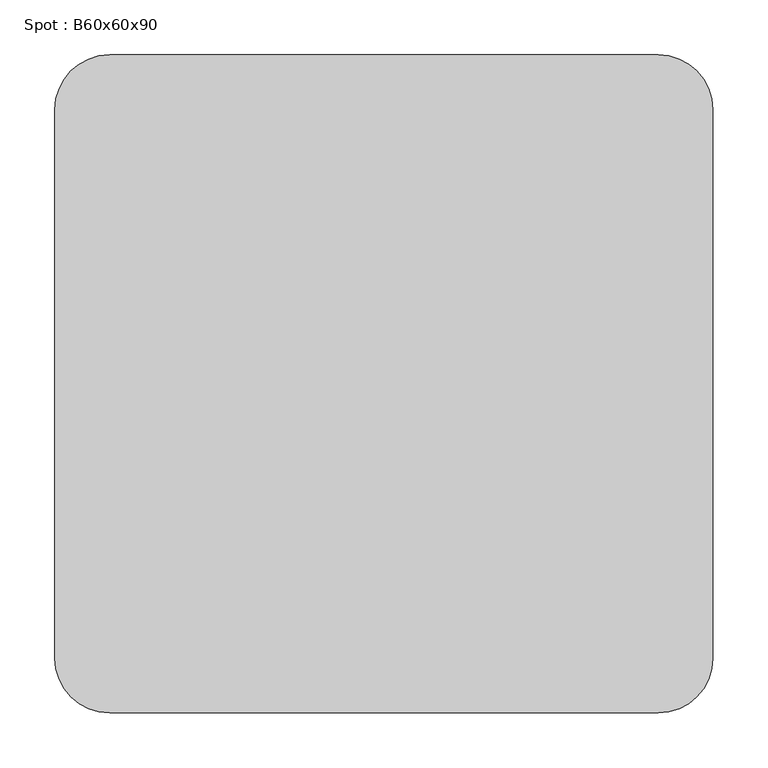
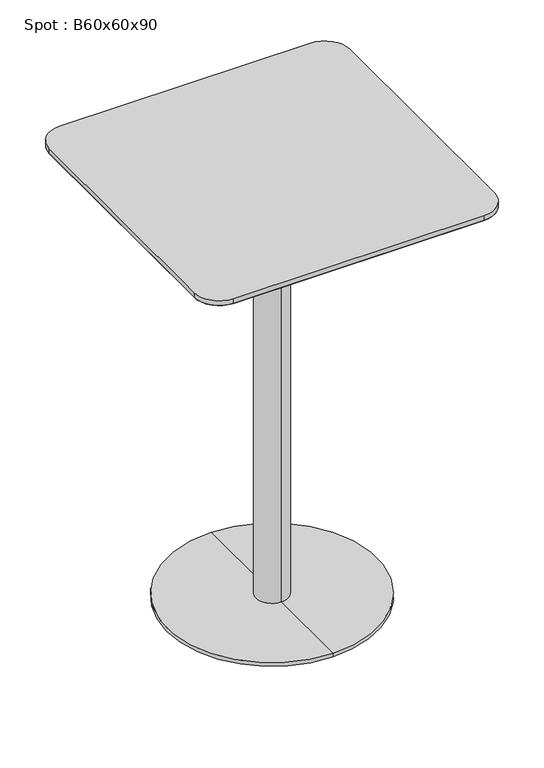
"""IFC4 building model written with IfcOpenShell, lengths in millimetres: furniture geometry, Spot : B60x60x90."""

from ifc_helpers import new_model, si_unit, point, frame, frame_2d, origin, place, context, project, spatial, polyline, circle_curve, trimmed, segment, composite_curve, outline, extrude, source, transform, mapped, element, save
from ifc_brep_helpers import plane_surface, cylinder_surface, revolved_surface, advanced_brep


def spot_b60x60x90_900ca555(model_context):
    return source(origin(), model_context, "Body", "SolidModel", [
        advanced_brep(
        [(-250.0, -250.0, 878.0), (-250.0, 250.0, 878.0), (250.0, 250.0, 878.0), (250.0, -250.0, 878.0), (-300.0, -250.0, 890.0), (-250.0, -300.0, 890.0), (250.0, -300.0, 890.0), (300.0, -250.0, 890.0), (300.0, 250.0, 890.0), (250.0, 300.0, 890.0), (-250.0, 300.0, 890.0), (-300.0, 250.0, 890.0)],
        [
            (0, 1),
            (1, 2),
            (2, 3),
            (3, 0),
            (4, 5, circle_curve(frame((-250.0, -250.0, 890.0), z_axis=(0.0, 0.0, 1.0), x_axis=(0.0, -1.0, 0.0)), 50.0)),
            (5, 6),
            (6, 7, circle_curve(frame((250.0, -250.0, 890.0), z_axis=(0.0, 0.0, 1.0), x_axis=(1.0, 0.0, 0.0)), 50.0)),
            (7, 8),
            (8, 9, circle_curve(frame((250.0, 250.0, 890.0), z_axis=(0.0, 0.0, 1.0), x_axis=(0.0, 1.0, 0.0)), 50.0)),
            (9, 10),
            (10, 11, circle_curve(frame((-250.0, 250.0, 890.0), z_axis=(0.0, 0.0, 1.0), x_axis=(-1.0, 0.0, 0.0)), 50.0)),
            (11, 4),
            (4, 0),
            (0, 5),
            (3, 6),
            (3, 7),
            (2, 8),
            (2, 9),
            (1, 10),
            (1, 11),
        ],
        [
            plane_surface(frame((0.0, 0.0, 878.0), z_axis=(0.0, 0.0, -1.0), x_axis=(-1.0, 0.0, 0.0))),
            plane_surface(frame((0.0, 0.0, 890.0), z_axis=(0.0, 0.0, 1.0), x_axis=(-1.0, 0.0, 0.0))),
            revolved_surface(polyline([(-250.0, -250.0, 878.0), (-250.0, -300.0, 890.0)]), (-250.0, -250.0, 878.0), (0.0, 0.0, 1.0)),
            plane_surface(frame((0.0, -300.0, 890.0), z_axis=(0.0, -0.23337295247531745, -0.9723873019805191), x_axis=(-1.0, 0.0, 0.0))),
            revolved_surface(polyline([(250.0, -250.0, 878.0), (300.0, -250.0, 890.0)]), (250.0, -250.0, 878.0), (0.0, 0.0, 1.0)),
            plane_surface(frame((300.0, 0.0, 890.0), z_axis=(0.23337295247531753, 0.0, -0.9723873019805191), x_axis=(0.0, -1.0, 0.0))),
            revolved_surface(polyline([(250.0, 250.0, 878.0), (250.0, 300.0, 890.0)]), (250.0, 250.0, 878.0), (0.0, 0.0, 1.0)),
            plane_surface(frame((0.0, 300.0, 890.0), z_axis=(0.0, 0.2333729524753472, -0.9723873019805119), x_axis=(1.0, 0.0, 0.0))),
            revolved_surface(polyline([(-250.0, 250.0, 878.0), (-300.0, 250.0, 890.0)]), (-250.0, 250.0, 878.0), (0.0, 0.0, 1.0)),
            plane_surface(frame((-300.0, 0.0, 890.0), z_axis=(-0.2333729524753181, 0.0, -0.9723873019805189), x_axis=(0.0, 1.0, 0.0))),
        ],
        [
            (0, [[1, 2, 3, 4]]),
            (1, [[5, 6, 7, 8, 9, 10, 11, 12]]),
            (2, [[-5, 13, 14]]),
            (3, [[-6, -14, -4, 15]]),
            (4, [[-7, -15, 16]]),
            (5, [[-8, -16, -3, 17]]),
            (6, [[-9, -17, 18]]),
            (7, [[-10, -18, -2, 19]]),
            (8, [[-11, -19, 20]]),
            (9, [[-12, -20, -1, -13]]),
        ],
    ),
        extrude(outline(composite_curve([segment(trimmed(circle_curve(frame_2d((250.0, 250.0)), 50.0), [point((250.0, 300.0))], [point((300.0, 250.0))], False, "CARTESIAN"), True, "CONTINUOUS"), segment(polyline([(300.0, 250.0), (300.0, -250.0)]), True, "CONTINUOUS"), segment(trimmed(circle_curve(frame_2d((250.0, -250.0)), 50.0), [point((300.0, -250.0))], [point((250.0, -300.0))], False, "CARTESIAN"), True, "CONTINUOUS"), segment(polyline([(250.0, -300.0), (-250.0, -300.0)]), True, "CONTINUOUS"), segment(trimmed(circle_curve(frame_2d((-250.0, -250.0)), 50.0), [point((-250.0, -300.0))], [point((-300.0, -250.0))], False, "CARTESIAN"), True, "CONTINUOUS"), segment(polyline([(-300.0, -250.0), (-300.0, 250.0)]), True, "CONTINUOUS"), segment(trimmed(circle_curve(frame_2d((-250.0, 250.0)), 50.0), [point((-300.0, 250.0))], [point((-250.0, 300.0))], False, "CARTESIAN"), True, "CONTINUOUS"), segment(polyline([(-250.0, 300.0), (250.0, 300.0)]), True, "CONTINUOUS")], self_intersect=False)), frame((0.0, 0.0, 890.0), z_axis=(0.0, 0.0, 1.0), x_axis=(1.0, 0.0, 0.0)), (0.0, 0.0, 1.0), 10.0),
        advanced_brep(
        [(0.0, 32.0, 10.0), (0.0, -32.0, 10.0), (0.0, -32.0, 847.406916), (0.0, 32.0, 847.406916), (0.0, 210.0, 10.0), (0.0, -210.0, 10.0), (0.0, 210.0, 2.0), (0.0, -210.0, 2.0), (0.0, 0.0, 2.0), (0.0, 150.0, 878.0), (0.0, -150.0, 878.0), (0.0, 0.0, 878.0), (0.0, 150.0, 866.7213673), (0.0, -150.0, 866.7213673)],
        [
            (0, 1, circle_curve(frame((0.0, 0.0, 10.0), z_axis=(0.0, 0.0, 1.0), x_axis=(0.0, -1.0, 0.0)), 32.0)),
            (1, 2),
            (2, 3, circle_curve(frame((0.0, 0.0, 847.406916), z_axis=(0.0, 0.0, -1.0), x_axis=(0.0, -1.0, 0.0)), 32.0)),
            (3, 0),
            (1, 0, circle_curve(frame((0.0, 0.0, 10.0), z_axis=(0.0, 0.0, 1.0), x_axis=(0.0, -1.0, 0.0)), 32.0)),
            (3, 2, circle_curve(frame((0.0, 0.0, 847.406916), z_axis=(0.0, 0.0, -1.0), x_axis=(0.0, -1.0, 0.0)), 32.0)),
            (4, 5, circle_curve(frame((0.0, 0.0, 10.0), z_axis=(0.0, 0.0, 1.0), x_axis=(0.0, -1.0, 0.0)), 210.0)),
            (5, 1),
            (0, 4),
            (5, 4, circle_curve(frame((0.0, 0.0, 10.0), z_axis=(0.0, 0.0, 1.0), x_axis=(0.0, -1.0, 0.0)), 210.0)),
            (6, 7, circle_curve(frame((0.0, 0.0, 2.0), z_axis=(0.0, 0.0, 1.0), x_axis=(0.0, -1.0, 0.0)), 210.0)),
            (7, 5),
            (4, 6),
            (7, 6, circle_curve(frame((0.0, 0.0, 2.0), z_axis=(0.0, 0.0, 1.0), x_axis=(0.0, -1.0, 0.0)), 210.0)),
            (8, 7),
            (6, 8),
            (9, 10, circle_curve(frame((0.0, 0.0, 878.0), z_axis=(0.0, 0.0, 1.0), x_axis=(0.0, -1.0, 0.0)), 150.0)),
            (10, 11),
            (11, 9),
            (10, 9, circle_curve(frame((0.0, 0.0, 878.0), z_axis=(0.0, 0.0, 1.0), x_axis=(0.0, -1.0, 0.0)), 150.0)),
            (12, 13, circle_curve(frame((0.0, 0.0, 866.7213673), z_axis=(0.0, 0.0, 1.0), x_axis=(0.0, -1.0, 0.0)), 150.0)),
            (13, 10),
            (9, 12),
            (13, 12, circle_curve(frame((0.0, 0.0, 866.7213673), z_axis=(0.0, 0.0, 1.0), x_axis=(0.0, -1.0, 0.0)), 150.0)),
            (2, 13),
            (12, 3),
        ],
        [
            cylinder_surface(frame((0.0, 0.0, 1240.0), z_axis=(0.0, 0.0, -1.0), x_axis=(0.0, -1.0, 0.0)), 32.0),
            plane_surface(frame((0.0, 0.0, 10.0), z_axis=(0.0, 0.0, 1.0), x_axis=(0.0, -1.0, 0.0))),
            cylinder_surface(frame((0.0, 0.0, 1240.0), z_axis=(0.0, 0.0, -1.0), x_axis=(0.0, -1.0, 0.0)), 210.0),
            plane_surface(frame((0.0, 0.0, 2.0), z_axis=(0.0, 0.0, -1.0), x_axis=(0.0, -1.0, 0.0))),
            plane_surface(frame((0.0, 0.0, 878.0), z_axis=(0.0, 0.0, 1.0), x_axis=(0.0, -1.0, 0.0))),
            cylinder_surface(frame((0.0, 0.0, 1240.0), z_axis=(0.0, 0.0, -1.0), x_axis=(0.0, -1.0, 0.0)), 150.0),
            revolved_surface(polyline([(0.0, -150.0, 866.7213673), (0.0, -32.0, 847.406916)]), (0.0, 0.0, 1240.0), (0.0, 0.0, -1.0)),
        ],
        [
            (0, [[1, 2, 3, 4]]),
            (0, [[5, -4, 6, -2]]),
            (1, [[7, 8, -1, 9]]),
            (1, [[10, -9, -5, -8]]),
            (2, [[11, 12, -7, 13]]),
            (2, [[14, -13, -10, -12]]),
            (3, [[15, -11, 16]]),
            (3, [[-16, -14, -15]]),
            (4, [[17, 18, 19]]),
            (4, [[20, -19, -18]]),
            (5, [[21, 22, -17, 23]]),
            (5, [[24, -23, -20, -22]]),
            (6, [[-3, 25, -21, 26]]),
            (6, [[-6, -26, -24, -25]]),
        ],
    ),
    ])


if __name__ == "__main__":
    model = new_model("IFC4")
    model_context = context("Model", 3, world=origin())
    ifc_project = project(units=[si_unit("LENGTHUNIT", "METRE", prefix="MILLI")], contexts=[model_context])
    site = spatial("IfcSite", under=ifc_project)
    building = spatial("IfcBuilding", under=site)
    placement = place(None, origin())
    spot_b60x60x90_shape = spot_b60x60x90_900ca555(model_context)
    element("IfcFurniture", 1, ObjectType="Spot : B60x60x90", at=placement, inside=building, context=model_context, shape_type="MappedRepresentation", body=[
        mapped(spot_b60x60x90_shape, transform((0.0, 0.0, 0.0), x_axis=(1.0, 0.0, 0.0), y_axis=(0.0, 1.0, 0.0), z_axis=(0.0, 0.0, 1.0))),
    ])
    save(model, "model.ifc")
